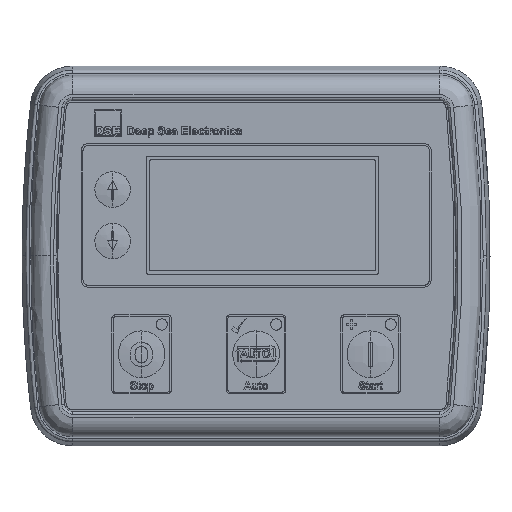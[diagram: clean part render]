
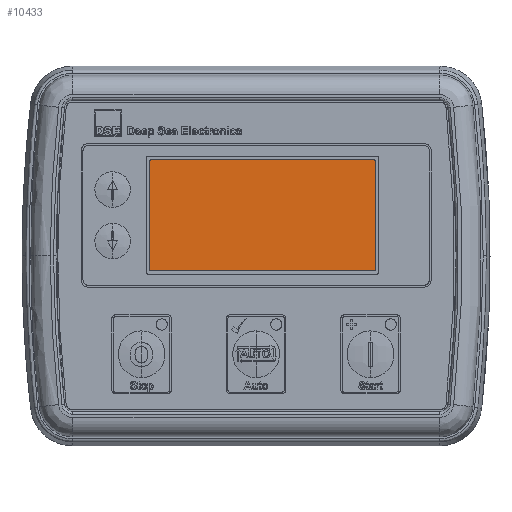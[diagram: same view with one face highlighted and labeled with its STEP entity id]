
A CAD part, top view. The second image highlights one B-rep face of the part: STEP entity #10433.
In plain terms, the highlighted planar face has unit normal (0, 0, 1).
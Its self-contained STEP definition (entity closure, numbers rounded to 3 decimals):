
#45 = DIRECTION ( 'NONE',  ( 0., 0., 1. ) ) ;
#286 = CARTESIAN_POINT ( 'NONE',  ( 36.724, -4.6, 7.55 ) ) ;
#833 = PLANE ( 'NONE',  #19609 ) ;
#1059 = CARTESIAN_POINT ( 'NONE',  ( -32.5, -4.652, 7.55 ) ) ;
#1321 = LINE ( 'NONE', #38369, #9808 ) ;
#1756 = B_SPLINE_CURVE_WITH_KNOTS ( 'NONE', 3,
 ( #53643, #55506, #53700, #53383, #53198, #53183, #53116, #53108, #52929, #52864, #52852, #52752, #52678 ),
 .UNSPECIFIED., .F., .F.,
 ( 4, 1, 2, 2, 2, 2, 4 ),
 ( 0., 0.125, 0.187, 0.25, 0.375, 0.5, 1. ),
 .UNSPECIFIED. ) ;
#2411 = CARTESIAN_POINT ( 'NONE',  ( -56.924, -45.75, 7.55 ) ) ;
#3585 = DIRECTION ( 'NONE',  ( -1., 0., 0. ) ) ;
#4728 = CARTESIAN_POINT ( 'NONE',  ( -32.983, -4.283, 7.55 ) ) ;
#6444 = CARTESIAN_POINT ( 'NONE',  ( 36.805, -4.55, 7.55 ) ) ;
#7989 = LINE ( 'NONE', #45422, #51908 ) ;
#9133 = EDGE_CURVE ( 'NONE', #64612, #53535, #1756, .T. ) ;
#9508 = CARTESIAN_POINT ( 'NONE',  ( 37., 29.348, 7.55 ) ) ;
#9808 = VECTOR ( 'NONE', #50375, 1000. ) ;
#10433 = ADVANCED_FACE ( 'NONE', ( #60331 ), #833, .T. ) ;
#10632 = EDGE_CURVE ( 'NONE', #66501, #44202, #33561, .T. ) ;
#10836 = CARTESIAN_POINT ( 'NONE',  ( -32.948, -4.376, 7.55 ) ) ;
#11660 = CARTESIAN_POINT ( 'NONE',  ( -33., 29.348, 7.55 ) ) ;
#12533 = CARTESIAN_POINT ( 'NONE',  ( 36.945, -4.416, 7.55 ) ) ;
#13116 = ORIENTED_EDGE ( 'NONE', *, *, #32096, .T. ) ;
#13651 = LINE ( 'NONE', #25108, #74310 ) ;
#14814 = ORIENTED_EDGE ( 'NONE', *, *, #9133, .T. ) ;
#15879 = ORIENTED_EDGE ( 'NONE', *, *, #63646, .T. ) ;
#16934 = CARTESIAN_POINT ( 'NONE',  ( -32.897, -4.457, 7.55 ) ) ;
#17151 = ORIENTED_EDGE ( 'NONE', *, *, #10632, .T. ) ;
#18638 = CARTESIAN_POINT ( 'NONE',  ( 37., -4.152, 7.55 ) ) ;
#19090 = CARTESIAN_POINT ( 'NONE',  ( -32.566, 29.845, 7.55 ) ) ;
#19609 = AXIS2_PLACEMENT_3D ( 'NONE', #2411, #45, #78545 ) ;
#20319 = ORIENTED_EDGE ( 'NONE', *, *, #32580, .T. ) ;
#21632 = ORIENTED_EDGE ( 'NONE', *, *, #78488, .T. ) ;
#23111 = CARTESIAN_POINT ( 'NONE',  ( -32.764, -4.596, 7.55 ) ) ;
#23563 = ORIENTED_EDGE ( 'NONE', *, *, #76051, .T. ) ;
#24124 = CARTESIAN_POINT ( 'NONE',  ( 36.501, -4.652, 7.55 ) ) ;
#24556 = CARTESIAN_POINT ( 'NONE',  ( 36.567, -4.649, 7.55 ) ) ;
#25108 = CARTESIAN_POINT ( 'NONE',  ( 0., -4.652, 7.55 ) ) ;
#25242 = ORIENTED_EDGE ( 'NONE', *, *, #43814, .T. ) ;
#25312 = CARTESIAN_POINT ( 'NONE',  ( 37., -4.152, 7.55 ) ) ;
#28716 = EDGE_LOOP ( 'NONE', ( #13116, #14814, #15879, #17151, #20319, #21632, #23563, #25242 ) ) ;
#29258 = CARTESIAN_POINT ( 'NONE',  ( -32.5, -4.652, 7.55 ) ) ;
#30662 = CARTESIAN_POINT ( 'NONE',  ( -33., -4.152, 7.55 ) ) ;
#32096 = EDGE_CURVE ( 'NONE', #61294, #64612, #7989, .T. ) ;
#32580 = EDGE_CURVE ( 'NONE', #44202, #50703, #1321, .T. ) ;
#33561 = B_SPLINE_CURVE_WITH_KNOTS ( 'NONE', 3,
 ( #71585, #73285, #19090, #71575, #71493, #71483, #71424, #71336, #71323, #71239, #71231, #71174 ),
 .UNSPECIFIED., .F., .F.,
 ( 4, 2, 2, 2, 2, 4 ),
 ( 0., 0.125, 0.25, 0.375, 0.5, 1. ),
 .UNSPECIFIED. ) ;
#35108 = CARTESIAN_POINT ( 'NONE',  ( -33., -4.185, 7.55 ) ) ;
#36800 = CARTESIAN_POINT ( 'NONE',  ( 36.666, -4.625, 7.55 ) ) ;
#38369 = CARTESIAN_POINT ( 'NONE',  ( -33., 0., 7.55 ) ) ;
#41233 = CARTESIAN_POINT ( 'NONE',  ( -32.996, -4.218, 7.55 ) ) ;
#42595 = VERTEX_POINT ( 'NONE', #1059 ) ;
#42949 = CARTESIAN_POINT ( 'NONE',  ( 36.752, -4.585, 7.55 ) ) ;
#43814 = EDGE_CURVE ( 'NONE', #48570, #61294, #59974, .T. ) ;
#44202 = VERTEX_POINT ( 'NONE', #11660 ) ;
#45422 = CARTESIAN_POINT ( 'NONE',  ( 37., 0., 7.55 ) ) ;
#46229 = CARTESIAN_POINT ( 'NONE',  ( 0., 29.848, 7.55 ) ) ;
#47372 = CARTESIAN_POINT ( 'NONE',  ( -32.973, -4.317, 7.55 ) ) ;
#48570 = VERTEX_POINT ( 'NONE', #24124 ) ;
#48813 = CARTESIAN_POINT ( 'NONE',  ( 36.501, -4.652, 7.55 ) ) ;
#49072 = CARTESIAN_POINT ( 'NONE',  ( 36.831, -4.528, 7.55 ) ) ;
#50375 = DIRECTION ( 'NONE',  ( 0., -1., 0. ) ) ;
#50703 = VERTEX_POINT ( 'NONE', #30662 ) ;
#51538 = DIRECTION ( 'NONE',  ( 0., 1., 0. ) ) ;
#51908 = VECTOR ( 'NONE', #51538, 1000. ) ;
#52678 = CARTESIAN_POINT ( 'NONE',  ( 36.501, 29.848, 7.55 ) ) ;
#52752 = CARTESIAN_POINT ( 'NONE',  ( 36.638, 29.848, 7.55 ) ) ;
#52852 = CARTESIAN_POINT ( 'NONE',  ( 36.764, 29.792, 7.55 ) ) ;
#52864 = CARTESIAN_POINT ( 'NONE',  ( 36.876, 29.679, 7.55 ) ) ;
#52929 = CARTESIAN_POINT ( 'NONE',  ( 36.898, 29.653, 7.55 ) ) ;
#53108 = CARTESIAN_POINT ( 'NONE',  ( 36.934, 29.6, 7.55 ) ) ;
#53116 = CARTESIAN_POINT ( 'NONE',  ( 36.949, 29.572, 7.55 ) ) ;
#53183 = CARTESIAN_POINT ( 'NONE',  ( 36.967, 29.528, 7.55 ) ) ;
#53198 = CARTESIAN_POINT ( 'NONE',  ( 36.973, 29.511, 7.55 ) ) ;
#53383 = CARTESIAN_POINT ( 'NONE',  ( 36.983, 29.479, 7.55 ) ) ;
#53488 = CARTESIAN_POINT ( 'NONE',  ( -32.933, -4.404, 7.55 ) ) ;
#53535 = VERTEX_POINT ( 'NONE', #77371 ) ;
#53643 = CARTESIAN_POINT ( 'NONE',  ( 37., 29.348, 7.55 ) ) ;
#53700 = CARTESIAN_POINT ( 'NONE',  ( 36.996, 29.431, 7.55 ) ) ;
#54063 = CARTESIAN_POINT ( 'NONE',  ( -32.5, 29.848, 7.55 ) ) ;
#55165 = CARTESIAN_POINT ( 'NONE',  ( 37., -4.289, 7.55 ) ) ;
#55506 = CARTESIAN_POINT ( 'NONE',  ( 37., 29.382, 7.55 ) ) ;
#59562 = CARTESIAN_POINT ( 'NONE',  ( -32.876, -4.483, 7.55 ) ) ;
#59974 = B_SPLINE_CURVE_WITH_KNOTS ( 'NONE', 3,
 ( #48813, #66977, #24556, #72945, #36800, #286, #42949, #6444, #49072, #12533, #55165, #18638 ),
 .UNSPECIFIED., .F., .F.,
 ( 4, 2, 2, 2, 2, 4 ),
 ( 0., 0.125, 0.25, 0.375, 0.5, 1. ),
 .UNSPECIFIED. ) ;
#60331 = FACE_OUTER_BOUND ( 'NONE', #28716, .T. ) ;
#60380 = VECTOR ( 'NONE', #3585, 1000. ) ;
#61294 = VERTEX_POINT ( 'NONE', #25312 ) ;
#61527 = DIRECTION ( 'NONE',  ( 1., 0., 0. ) ) ;
#63646 = EDGE_CURVE ( 'NONE', #53535, #66501, #76205, .T. ) ;
#64612 = VERTEX_POINT ( 'NONE', #9508 ) ;
#65556 = CARTESIAN_POINT ( 'NONE',  ( -32.637, -4.652, 7.55 ) ) ;
#66501 = VERTEX_POINT ( 'NONE', #54063 ) ;
#66977 = CARTESIAN_POINT ( 'NONE',  ( 36.534, -4.652, 7.55 ) ) ;
#71174 = CARTESIAN_POINT ( 'NONE',  ( -33., 29.348, 7.55 ) ) ;
#71231 = CARTESIAN_POINT ( 'NONE',  ( -33., 29.485, 7.55 ) ) ;
#71239 = CARTESIAN_POINT ( 'NONE',  ( -32.944, 29.612, 7.55 ) ) ;
#71323 = CARTESIAN_POINT ( 'NONE',  ( -32.831, 29.724, 7.55 ) ) ;
#71336 = CARTESIAN_POINT ( 'NONE',  ( -32.805, 29.746, 7.55 ) ) ;
#71424 = CARTESIAN_POINT ( 'NONE',  ( -32.752, 29.782, 7.55 ) ) ;
#71483 = CARTESIAN_POINT ( 'NONE',  ( -32.724, 29.797, 7.55 ) ) ;
#71493 = CARTESIAN_POINT ( 'NONE',  ( -32.665, 29.821, 7.55 ) ) ;
#71575 = CARTESIAN_POINT ( 'NONE',  ( -32.631, 29.832, 7.55 ) ) ;
#71585 = CARTESIAN_POINT ( 'NONE',  ( -32.5, 29.848, 7.55 ) ) ;
#72945 = CARTESIAN_POINT ( 'NONE',  ( 36.632, -4.635, 7.55 ) ) ;
#73285 = CARTESIAN_POINT ( 'NONE',  ( -32.533, 29.848, 7.55 ) ) ;
#74310 = VECTOR ( 'NONE', #61527, 1000. ) ;
#75554 = B_SPLINE_CURVE_WITH_KNOTS ( 'NONE', 3,
 ( #77219, #35108, #41233, #4728, #47372, #10836, #53488, #16934, #59562, #23111, #65556, #29258 ),
 .UNSPECIFIED., .F., .F.,
 ( 4, 2, 2, 2, 2, 4 ),
 ( 0., 0.125, 0.25, 0.375, 0.5, 1. ),
 .UNSPECIFIED. ) ;
#76051 = EDGE_CURVE ( 'NONE', #42595, #48570, #13651, .T. ) ;
#76205 = LINE ( 'NONE', #46229, #60380 ) ;
#77219 = CARTESIAN_POINT ( 'NONE',  ( -33., -4.152, 7.55 ) ) ;
#77371 = CARTESIAN_POINT ( 'NONE',  ( 36.501, 29.848, 7.55 ) ) ;
#78488 = EDGE_CURVE ( 'NONE', #50703, #42595, #75554, .T. ) ;
#78545 = DIRECTION ( 'NONE',  ( 1., 0., 0. ) ) ;
